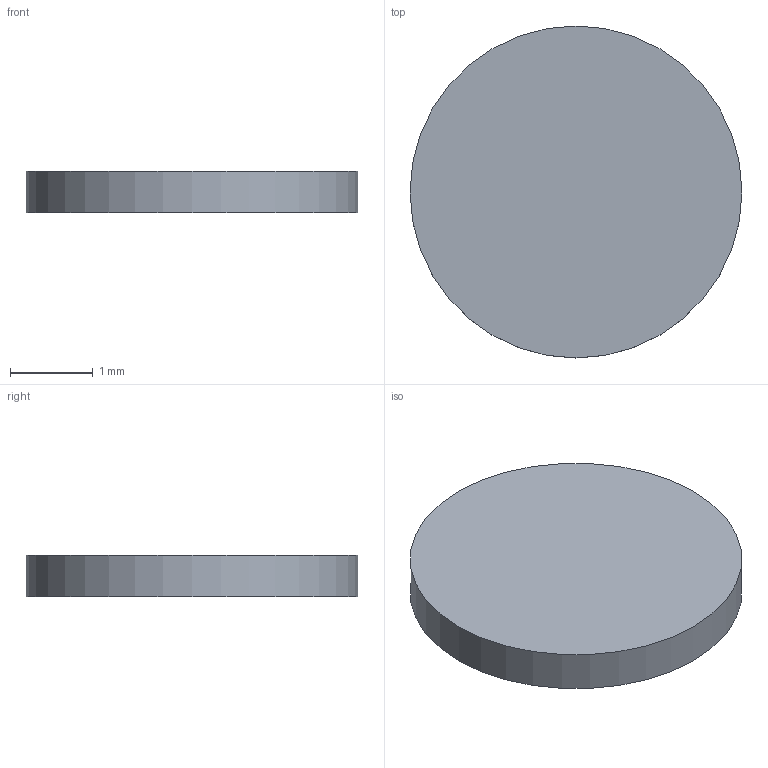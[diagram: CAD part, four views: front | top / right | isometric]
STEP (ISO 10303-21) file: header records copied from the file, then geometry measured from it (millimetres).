
FILE_DESCRIPTION(('Open CASCADE Model'),'2;1');
FILE_NAME('Open CASCADE Shape Model','2026-10-24T17:46:06',('Author'),( 'Open CASCADE'),'Open CASCADE STEP processor 8.0','Open CASCADE 8.0' ,'Unknown');
FILE_SCHEMA(('AUTOMOTIVE_DESIGN { 1 0 10303 214 1 1 1 1 }'));
Length unit declared in the file: millimetre
Products named in the file (1): Open CASCADE STEP translator 8.0 38
Bounding box: 4 x 4 x 0.5 mm (x, y, z)
Volume: 6.3 mm3; surface area: 31.4 mm2
Topology: 1 solids, 1 shells, 3 faces, 3 edges, 2 vertices
Faces by surface type: plane 2, cylinder 1
Full cylindrical faces by diameter (mm): 4 x1
Entity records: 108 total; most frequent: DIRECTION 19, CARTESIAN_POINT 15, AXIS2_PLACEMENT_3D 6, ORIENTED_EDGE 6, PCURVE 6, DEFINITIONAL_REPRESENTATION 6, LINE 5, VECTOR 5
